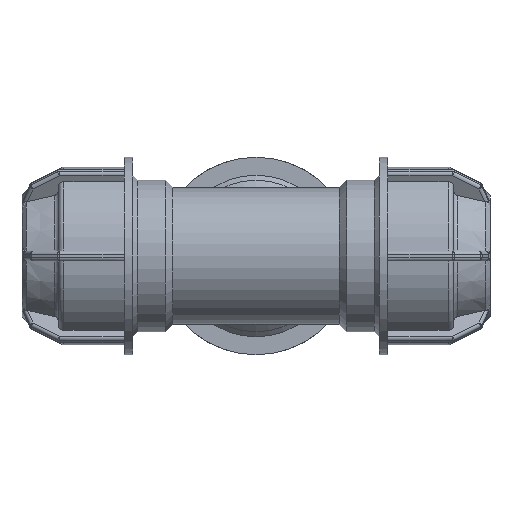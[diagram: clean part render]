
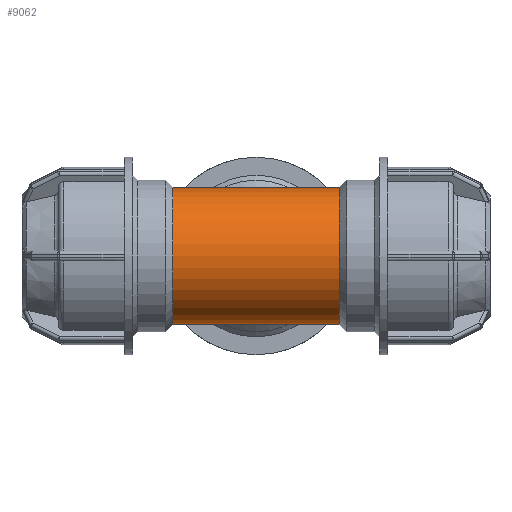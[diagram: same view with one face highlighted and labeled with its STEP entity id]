
A CAD part, front view. The second image highlights one B-rep face of the part: STEP entity #9062.
In plain terms, the highlighted cylindrical face has radius 25.2 mm (diameter 50.4 mm), a full revolution.
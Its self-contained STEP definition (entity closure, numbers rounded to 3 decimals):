
#15=ELLIPSE('',#9987,35.638,25.2);
#16=ELLIPSE('',#9988,35.638,25.2);
#1920=CYLINDRICAL_SURFACE('',#10008,25.2);
#2009=FACE_BOUND('',#3058,.T.);
#2010=FACE_BOUND('',#3059,.T.);
#2426=FACE_OUTER_BOUND('',#3057,.T.);
#3057=EDGE_LOOP('',(#7731));
#3058=EDGE_LOOP('',(#7732));
#3059=EDGE_LOOP('',(#7733,#7734));
#3271=CIRCLE('',#9264,25.2);
#3277=CIRCLE('',#9274,25.2);
#3775=VERTEX_POINT('',#13134);
#3781=VERTEX_POINT('',#13150);
#4300=VERTEX_POINT('',#16098);
#4301=VERTEX_POINT('',#16099);
#4571=EDGE_CURVE('',#3775,#3775,#3271,.T.);
#4577=EDGE_CURVE('',#3781,#3781,#3277,.T.);
#5467=EDGE_CURVE('',#4300,#4301,#15,.T.);
#5468=EDGE_CURVE('',#4300,#4301,#16,.T.);
#7731=ORIENTED_EDGE('',*,*,#4577,.F.);
#7732=ORIENTED_EDGE('',*,*,#4571,.F.);
#7733=ORIENTED_EDGE('',*,*,#5468,.T.);
#7734=ORIENTED_EDGE('',*,*,#5467,.F.);
#9062=ADVANCED_FACE('',(#2426,#2009,#2010),#1920,.T.);
#9264=AXIS2_PLACEMENT_3D('',#13135,#10376,#10377);
#9274=AXIS2_PLACEMENT_3D('',#13151,#10396,#10397);
#9987=AXIS2_PLACEMENT_3D('',#16100,#12182,#12183);
#9988=AXIS2_PLACEMENT_3D('',#16101,#12184,#12185);
#10008=AXIS2_PLACEMENT_3D('',#16129,#12224,#12225);
#10376=DIRECTION('center_axis',(1.,0.,0.));
#10377=DIRECTION('ref_axis',(0.,0.,-1.));
#10396=DIRECTION('center_axis',(-1.,0.,0.));
#10397=DIRECTION('ref_axis',(0.,0.,-1.));
#12182=DIRECTION('center_axis',(0.707,0.707,0.));
#12183=DIRECTION('ref_axis',(0.707,-0.707,0.));
#12184=DIRECTION('center_axis',(0.707,-0.707,0.));
#12185=DIRECTION('ref_axis',(-0.707,-0.707,0.));
#12224=DIRECTION('center_axis',(1.,0.,0.));
#12225=DIRECTION('ref_axis',(0.,1.,0.));
#13134=CARTESIAN_POINT('',(30.7,25.2,0.));
#13135=CARTESIAN_POINT('Origin',(30.7,0.,0.));
#13150=CARTESIAN_POINT('',(-30.7,-25.2,0.));
#13151=CARTESIAN_POINT('Origin',(-30.7,0.,0.));
#16098=CARTESIAN_POINT('',(0.,0.,
-25.2));
#16099=CARTESIAN_POINT('',(0.,0.,
25.2));
#16100=CARTESIAN_POINT('Origin',(0.,0.,
0.));
#16101=CARTESIAN_POINT('Origin',(0.,0.,
0.));
#16129=CARTESIAN_POINT('Origin',(15.35,0.,0.));
